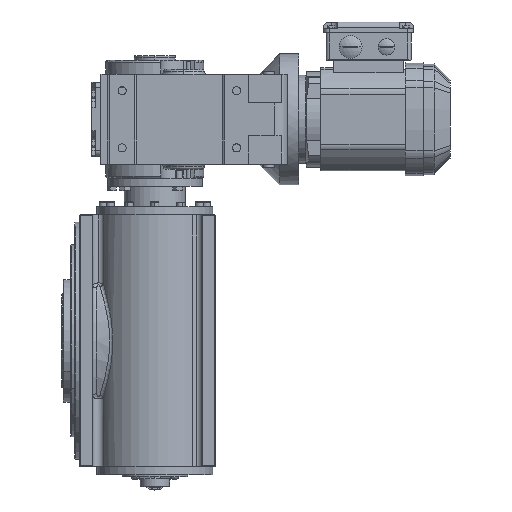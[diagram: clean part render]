
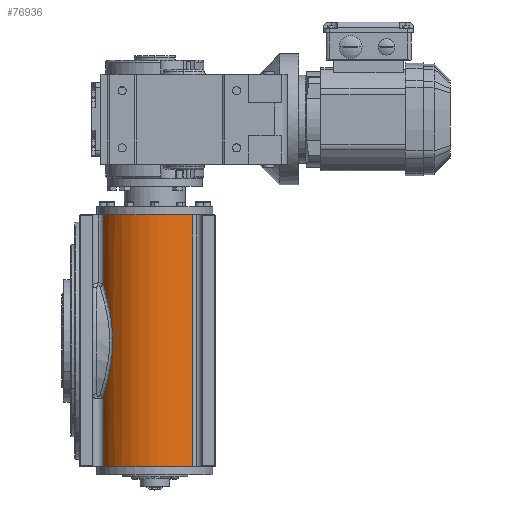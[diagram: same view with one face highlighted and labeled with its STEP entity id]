
A CAD part, left-side view. The second image highlights one B-rep face of the part: STEP entity #76936.
In plain terms, the highlighted cylindrical face has radius 71 mm (diameter 142 mm), a partial arc.
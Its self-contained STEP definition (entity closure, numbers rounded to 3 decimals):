
#1183 = EDGE_CURVE ( 'NONE', #38995, #87695, #7251, .T. ) ;
#2179 = CARTESIAN_POINT ( 'NONE',  ( -143.351, 125.993, 14.878 ) ) ;
#2622 = CARTESIAN_POINT ( 'NONE',  ( -128.109, 136.808, 68.859 ) ) ;
#3140 = AXIS2_PLACEMENT_3D ( 'NONE', #46270, #24635, #45397 ) ;
#3284 = CARTESIAN_POINT ( 'NONE',  ( -128.109, 136.808, -500000. ) ) ;
#4363 = VECTOR ( 'NONE', #59798, 1000. ) ;
#5251 = AXIS2_PLACEMENT_3D ( 'NONE', #61383, #27513, #55426 ) ;
#6436 = CARTESIAN_POINT ( 'NONE',  ( -136.93, 131.346, -47.157 ) ) ;
#7094 = CARTESIAN_POINT ( 'NONE',  ( -148.721, 27.577, -154. ) ) ;
#7251 = B_SPLINE_CURVE_WITH_KNOTS ( 'NONE', 3,
 ( #2622, #63601, #10245, #37824, #30134, #50436, #29244, #22494, #43261, #77987, #70799, #64051, #2179, #16152, #57662, #23404, #78430, #44158, #71701, #9807, #37367, #64938, #20902, #75500, #88185, #53385, #6436, #75052, #89040, #81439 ),
 .UNSPECIFIED., .F., .F.,
 ( 4, 2, 2, 2, 2, 2, 2, 2, 2, 2, 2, 2, 2, 2, 4 ),
 ( 0., 0.018, 0.023, 0.027, 0.036, 0.055, 0.059, 0.064, 0.073, 0.091, 0.095, 0.1, 0.109, 0.127, 0.145 ),
 .UNSPECIFIED. ) ;
#9769 = CARTESIAN_POINT ( 'NONE',  ( -95., 74., -154. ) ) ;
#9807 = CARTESIAN_POINT ( 'NONE',  ( -142.826, 126.476, -19.641 ) ) ;
#10245 = CARTESIAN_POINT ( 'NONE',  ( -133.018, 134.012, 58.125 ) ) ;
#11466 = LINE ( 'NONE', #32248, #4363 ) ;
#16152 = CARTESIAN_POINT ( 'NONE',  ( -143.607, 125.753, 11.865 ) ) ;
#16367 = DIRECTION ( 'NONE',  ( 0., 0., 1. ) ) ;
#18714 = CARTESIAN_POINT ( 'NONE',  ( -128.109, 136.808, 68.859 ) ) ;
#20902 = CARTESIAN_POINT ( 'NONE',  ( -141.962, 127.251, -25.6 ) ) ;
#21647 = CYLINDRICAL_SURFACE ( 'NONE', #5251, 71. ) ;
#22229 = VERTEX_POINT ( 'NONE', #51290 ) ;
#22494 = CARTESIAN_POINT ( 'NONE',  ( -138.57, 130.069, 41.275 ) ) ;
#23404 = CARTESIAN_POINT ( 'NONE',  ( -143.967, 125.413, 5.846 ) ) ;
#24570 = ORIENTED_EDGE ( 'NONE', *, *, #78187, .F. ) ;
#24635 = DIRECTION ( 'NONE',  ( 0., 0., 1. ) ) ;
#27513 = DIRECTION ( 'NONE',  ( 0., 0., 1. ) ) ;
#27913 = VERTEX_POINT ( 'NONE', #44484 ) ;
#28036 = EDGE_CURVE ( 'NONE', #87695, #49791, #11466, .T. ) ;
#28064 = CIRCLE ( 'NONE', #56903, 71. ) ;
#29244 = CARTESIAN_POINT ( 'NONE',  ( -137.325, 131.008, 45.529 ) ) ;
#30134 = CARTESIAN_POINT ( 'NONE',  ( -135.977, 131.984, 49.755 ) ) ;
#32248 = CARTESIAN_POINT ( 'NONE',  ( -128.109, 136.808, 500000. ) ) ;
#33372 = ORIENTED_EDGE ( 'NONE', *, *, #28036, .T. ) ;
#37367 = CARTESIAN_POINT ( 'NONE',  ( -142.631, 126.653, -21.138 ) ) ;
#37824 = CARTESIAN_POINT ( 'NONE',  ( -135.5, 132.319, 51.157 ) ) ;
#38212 = DIRECTION ( 'NONE',  ( 0., 0., 1. ) ) ;
#38995 = VERTEX_POINT ( 'NONE', #18714 ) ;
#43261 = CARTESIAN_POINT ( 'NONE',  ( -139.32, 129.475, 38.415 ) ) ;
#44158 = CARTESIAN_POINT ( 'NONE',  ( -144.04, 125.343, -6.17 ) ) ;
#44484 = CARTESIAN_POINT ( 'NONE',  ( -148.721, 27.577, -154. ) ) ;
#45397 = DIRECTION ( 'NONE',  ( 1., 0., 0. ) ) ;
#46270 = CARTESIAN_POINT ( 'NONE',  ( -95., 74., 154. ) ) ;
#47381 = VECTOR ( 'NONE', #16367, 1000. ) ;
#48694 = ORIENTED_EDGE ( 'NONE', *, *, #65710, .T. ) ;
#49791 = VERTEX_POINT ( 'NONE', #69169 ) ;
#50422 = EDGE_CURVE ( 'NONE', #22229, #82039, #78067, .T. ) ;
#50436 = CARTESIAN_POINT ( 'NONE',  ( -136.889, 131.329, 46.942 ) ) ;
#50667 = LINE ( 'NONE', #3284, #47381 ) ;
#51290 = CARTESIAN_POINT ( 'NONE',  ( -128.109, 136.808, 154. ) ) ;
#52086 = EDGE_CURVE ( 'NONE', #49791, #27913, #28064, .T. ) ;
#53385 = CARTESIAN_POINT ( 'NONE',  ( -138.584, 130.076, -41.542 ) ) ;
#55426 = DIRECTION ( 'NONE',  ( 1., 0., 0. ) ) ;
#55642 = ORIENTED_EDGE ( 'NONE', *, *, #50422, .F. ) ;
#56903 = AXIS2_PLACEMENT_3D ( 'NONE', #9769, #38212, #58957 ) ;
#57173 = ORIENTED_EDGE ( 'NONE', *, *, #1183, .T. ) ;
#57662 = CARTESIAN_POINT ( 'NONE',  ( -143.713, 125.653, 10.36 ) ) ;
#58168 = ORIENTED_EDGE ( 'NONE', *, *, #52086, .T. ) ;
#58957 = DIRECTION ( 'NONE',  ( 1., 0., 0. ) ) ;
#59206 = CARTESIAN_POINT ( 'NONE',  ( -128.109, 136.808, -68.859 ) ) ;
#59798 = DIRECTION ( 'NONE',  ( 0., 0., -1. ) ) ;
#60853 = LINE ( 'NONE', #7094, #63104 ) ;
#61383 = CARTESIAN_POINT ( 'NONE',  ( -95., 74., -154. ) ) ;
#63104 = VECTOR ( 'NONE', #74380, 1000. ) ;
#63601 = CARTESIAN_POINT ( 'NONE',  ( -130.725, 135.429, 63.555 ) ) ;
#64051 = CARTESIAN_POINT ( 'NONE',  ( -143.2, 126.132, 16.387 ) ) ;
#64938 = CARTESIAN_POINT ( 'NONE',  ( -142.199, 127.041, -24.119 ) ) ;
#65710 = EDGE_CURVE ( 'NONE', #27913, #82039, #60853, .T. ) ;
#69169 = CARTESIAN_POINT ( 'NONE',  ( -128.109, 136.808, -154. ) ) ;
#69503 = FACE_OUTER_BOUND ( 'NONE', #80459, .T. ) ;
#70799 = CARTESIAN_POINT ( 'NONE',  ( -142.345, 126.918, 23.884 ) ) ;
#71701 = CARTESIAN_POINT ( 'NONE',  ( -143.692, 125.681, -12.164 ) ) ;
#74380 = DIRECTION ( 'NONE',  ( 0., 0., 1. ) ) ;
#75052 = CARTESIAN_POINT ( 'NONE',  ( -132.999, 134.023, -58.167 ) ) ;
#75171 = CARTESIAN_POINT ( 'NONE',  ( -148.721, 27.577, 154. ) ) ;
#75500 = CARTESIAN_POINT ( 'NONE',  ( -141.192, 127.924, -30.015 ) ) ;
#76936 = ADVANCED_FACE ( 'NONE', ( #69503 ), #21647, .T. ) ;
#77987 = CARTESIAN_POINT ( 'NONE',  ( -141.327, 127.831, 29.758 ) ) ;
#78067 = CIRCLE ( 'NONE', #3140, 71. ) ;
#78187 = EDGE_CURVE ( 'NONE', #38995, #22229, #50667, .T. ) ;
#78430 = CARTESIAN_POINT ( 'NONE',  ( -144.049, 125.334, 2.839 ) ) ;
#80459 = EDGE_LOOP ( 'NONE', ( #24570, #57173, #33372, #58168, #48694, #55642 ) ) ;
#81439 = CARTESIAN_POINT ( 'NONE',  ( -128.109, 136.808, -68.859 ) ) ;
#82039 = VERTEX_POINT ( 'NONE', #75171 ) ;
#87695 = VERTEX_POINT ( 'NONE', #59206 ) ;
#88185 = CARTESIAN_POINT ( 'NONE',  ( -140.598, 128.429, -32.922 ) ) ;
#89040 = CARTESIAN_POINT ( 'NONE',  ( -130.722, 135.43, -63.561 ) ) ;
